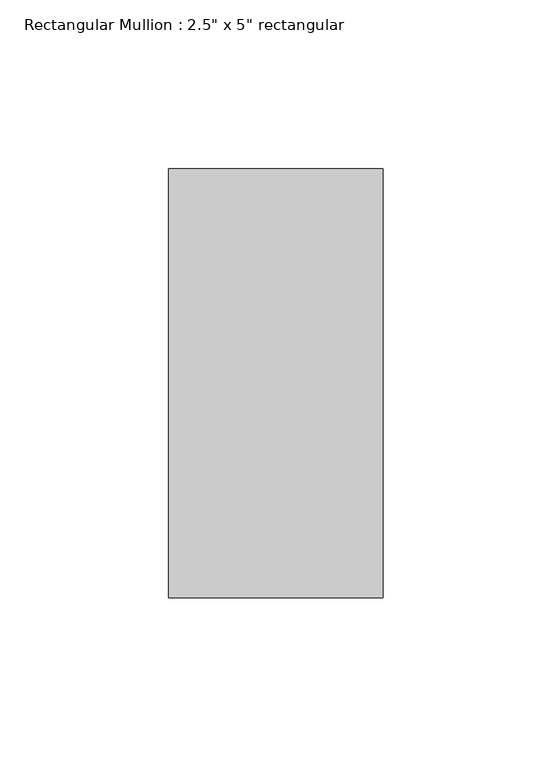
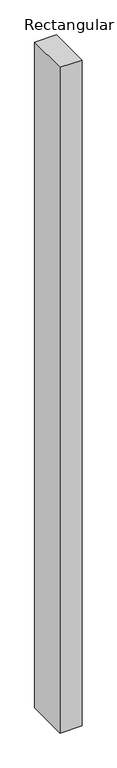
"""IFC4 building model written with IfcOpenShell, lengths in millimetres: member geometry."""

from ifc_helpers import new_model, si_unit, frame, origin, place, context, project, spatial, polyline, outline, extrude, source, transform, mapped, element, save


def member_f95d5bf5(model_context):
    return source(origin(), model_context, "Body", "SweptSolid", [
        extrude(outline(polyline([(31.75, 63.5), (31.75, -63.5), (-31.75, -63.5), (-31.75, 63.5), (31.75, 63.5)])), frame((0.0, 0.0, -2032.0), z_axis=(0.0, 0.0, 1.0), x_axis=(1.0, 0.0, 0.0)), (0.0, 0.0, 1.0), 2032.0),
    ])


if __name__ == "__main__":
    model = new_model("IFC4")
    model_context = context("Model", 3, world=origin())
    ifc_project = project(units=[si_unit("LENGTHUNIT", "METRE", prefix="MILLI")], contexts=[model_context])
    site = spatial("IfcSite", under=ifc_project)
    building = spatial("IfcBuilding", under=site)
    placement = place(None, origin())
    member_shape = member_f95d5bf5(model_context)
    element("IfcMember", 1, ObjectType="Rectangular Mullion : 2.5\" x 5\" rectangular", at=placement, inside=building, context=model_context, shape_type="MappedRepresentation", body=[
        mapped(member_shape, transform((0.0, 0.0, 0.0), x_axis=(1.0, 0.0, 0.0), y_axis=(0.0, 1.0, 0.0), z_axis=(0.0, 0.0, 1.0))),
    ])
    save(model, "model.ifc")
